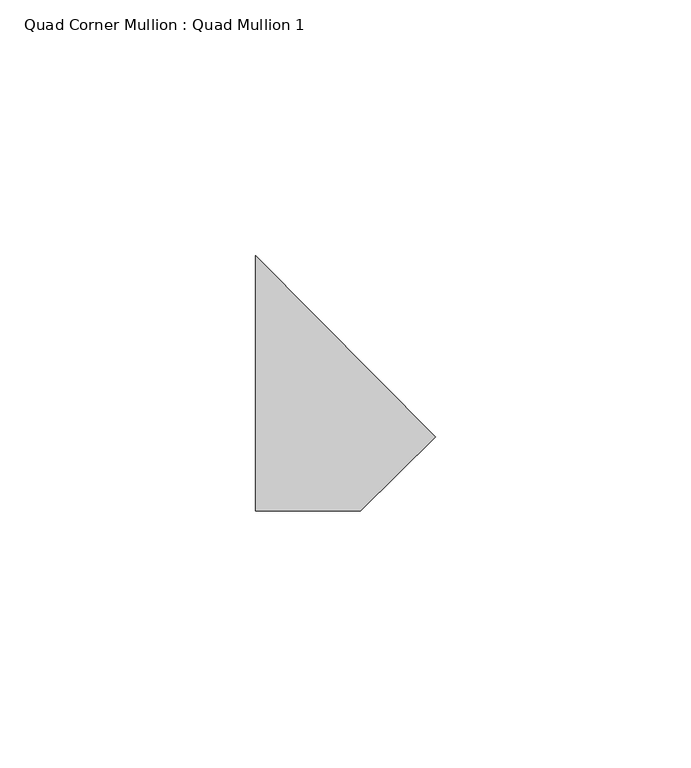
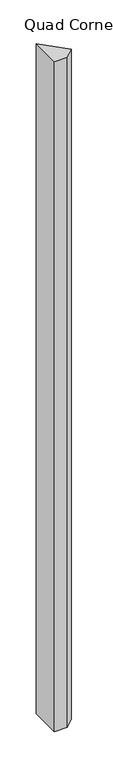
"""IFC4 building model written with IfcOpenShell, lengths in millimetres: member geometry, Quad Corner Mullion : Quad Mullion 1."""

import ifcopenshell
import ifcopenshell.guid

model = None  # the IFC model being written
_history = None  # IfcOwnerHistory: only IFC2X3 demands one
_inside = {}  # id of a spatial element -> (the spatial element, [elements in it])
_under = {}  # id of a project, library or spatial element -> (it, [spatial elements below it])
_declared = {}  # id of a project -> (the project, [libraries it declares])
_typed = {}  # id of a type object -> (the type object, [elements of that type])
_made_of = {}  # id of a material, layer set ... -> (it, [elements and type objects made of it])


def new_model(schema):
    """Start an empty IFC model of exactly this schema.

    Asked for "IFC4X3", IfcOpenShell would pick the latest addendum, in which some entities
    have other attributes; the version numbers below select the first issue.
    IFC2X3 requires an IfcOwnerHistory on every rooted entity: one is made here for all.
    """
    global model, _history
    if schema == "IFC4X3":
        model = ifcopenshell.file(schema_version=(4, 3, 0, 0))
    else:
        model = ifcopenshell.file(schema=schema)
    _inside.clear()
    _under.clear()
    _declared.clear()
    _typed.clear()
    _made_of.clear()
    _history = None
    if model.schema == "IFC2X3":
        org = make("IfcOrganization", Name="unknown")
        user = make(
            "IfcPersonAndOrganization",
            ThePerson=make("IfcPerson", FamilyName="unknown"),
            TheOrganization=org,
        )
        app = make(
            "IfcApplication",
            ApplicationDeveloper=org,
            Version="unknown",
            ApplicationFullName="unknown",
            ApplicationIdentifier="unknown",
        )
        _history = make(
            "IfcOwnerHistory",
            OwningUser=user,
            OwningApplication=app,
            ChangeAction="ADDED",
            CreationDate=0,
        )
    return model


def make(cls, **values):
    """One entity of the class cls with the attributes given. An attribute that is None is left unset."""
    return model.create_entity(
        cls, **{name: value for name, value in values.items() if value is not None}
    )


def rooted(cls, **values):
    """An entity with a GlobalId (a new one), such as an element, a storey or a relation."""
    return make(cls, GlobalId=ifcopenshell.guid.new(), OwnerHistory=_history, **values)


def si_unit(unit_type, name, prefix=None):
    """IfcSIUnit, for example si_unit("LENGTHUNIT", "METRE", prefix="MILLI")."""
    return make("IfcSIUnit", UnitType=unit_type, Prefix=prefix, Name=name)


def assignment(units):
    """IfcUnitAssignment: the units of a project."""
    return None if units is None else make("IfcUnitAssignment", Units=units)


def point(xyz):
    """IfcCartesianPoint."""
    return None if xyz is None else make("IfcCartesianPoint", Coordinates=xyz)


def direction(xyz):
    """IfcDirection."""
    return None if xyz is None else make("IfcDirection", DirectionRatios=xyz)


def frame(location, z_axis=None, x_axis=None):
    """IfcAxis2Placement3D, a coordinate frame: its origin and axes. An axis left out is left unset."""
    return make(
        "IfcAxis2Placement3D",
        Location=point(location),
        Axis=direction(z_axis),
        RefDirection=direction(x_axis),
    )


def origin():
    """The frame at (0, 0, 0) with its axes left unset."""
    return frame((0.0, 0.0, 0.0))


def place(relative_to, where):
    """IfcLocalPlacement: puts the frame where relative to a parent placement (None: the world)."""
    return make(
        "IfcLocalPlacement", PlacementRelTo=relative_to, RelativePlacement=where
    )


def context(
    kind, dimensions, precision=None, world=None, true_north=None, identifier=None
):
    """IfcGeometricRepresentationContext, for example the 3D "Model" context."""
    return make(
        "IfcGeometricRepresentationContext",
        ContextIdentifier=identifier,
        ContextType=kind,
        CoordinateSpaceDimension=dimensions,
        Precision=precision,
        WorldCoordinateSystem=world,
        TrueNorth=true_north,
    )


def project(units=None, contexts=None):
    """IfcProject with its units and contexts."""
    return rooted(
        "IfcProject",
        Name="project",
        RepresentationContexts=contexts,
        UnitsInContext=assignment(units),
    )


def spatial(cls, under=None, at=None, **own):
    """A site, building, storey or space (cls), placed at a placement, below another one or the project."""
    s = rooted(cls, ObjectPlacement=at, **own)
    if under is not None:
        _under.setdefault(under.id(), (under, []))[1].append(s)
    return s


def polyline(points):
    """IfcPolyline through the points."""
    return make("IfcPolyline", Points=[point(p) for p in points])


def outline(outer, holes=None, kind="AREA"):
    """IfcArbitraryClosedProfileDef: a profile drawn as a closed curve; with holes, ...WithVoids."""
    if holes is None:
        return make("IfcArbitraryClosedProfileDef", ProfileType=kind, OuterCurve=outer)
    return make(
        "IfcArbitraryProfileDefWithVoids",
        ProfileType=kind,
        OuterCurve=outer,
        InnerCurves=holes,
    )


def extrude(swept, where, along, depth):
    """IfcExtrudedAreaSolid: the profile swept, set in the frame where, extruded along a direction by depth."""
    return make(
        "IfcExtrudedAreaSolid",
        SweptArea=swept,
        Position=where,
        ExtrudedDirection=direction(along),
        Depth=depth,
    )


def shape(context_of_items, identifier, shape_type, items):
    """IfcShapeRepresentation: the items that make up one representation, for example the "Body"."""
    return make(
        "IfcShapeRepresentation",
        ContextOfItems=context_of_items,
        RepresentationIdentifier=identifier,
        RepresentationType=shape_type,
        Items=items,
    )


def source(mapping_origin, context_of_items, identifier, shape_type, items):
    """IfcRepresentationMap: a shape defined once, which mapped items show again and again."""
    return make(
        "IfcRepresentationMap",
        MappingOrigin=mapping_origin,
        MappedRepresentation=shape(context_of_items, identifier, shape_type, items),
    )


def transform(
    local_origin,
    x_axis=None,
    y_axis=None,
    z_axis=None,
    scale=None,
    scale2=None,
    scale3=None,
    uniform=True,
):
    """IfcCartesianTransformationOperator3D, or its non-uniform kind. x_axis, y_axis, z_axis: its Axis1, 2, 3."""
    if uniform:
        return make(
            "IfcCartesianTransformationOperator3D",
            Axis1=direction(x_axis),
            Axis2=direction(y_axis),
            LocalOrigin=point(local_origin),
            Scale=scale,
            Axis3=direction(z_axis),
        )
    return make(
        "IfcCartesianTransformationOperator3DnonUniform",
        Axis1=direction(x_axis),
        Axis2=direction(y_axis),
        LocalOrigin=point(local_origin),
        Scale=scale,
        Axis3=direction(z_axis),
        Scale2=scale2,
        Scale3=scale3,
    )


def mapped(mapping_source, mapping_target):
    """IfcMappedItem: shows the shape of a source again, moved by a transform."""
    return make(
        "IfcMappedItem", MappingSource=mapping_source, MappingTarget=mapping_target
    )


def made_of(thing, what):
    """Note that an element or type object is made of a material, layer set ...; save() writes the relation."""
    if what is not None:
        _made_of.setdefault(what.id(), (what, []))[1].append(thing)
    return thing


def element(
    cls,
    number,
    at=None,
    inside=None,
    cuts=None,
    type_object=None,
    material=None,
    context=None,
    identifier="Body",
    shape_type=None,
    held_by="IfcProductDefinitionShape",
    body=None,
    shapes=None,
    **own,
):
    """One element of the class cls, such as IfcWall. Its Tag is "e" and its number.

    at: its placement. inside: the storey or other place that contains it. cuts: it is an
    opening in that element (IfcRelVoidsElement). A single representation is given by context,
    identifier, shape_type and body (its items); several are given by shapes. held_by: the class
    of the entity that holds the representations. save() writes the other relations.
    """
    e = rooted(cls, Tag="e%d" % number, ObjectPlacement=at, **own)
    if body is not None:
        shapes = [shape(context, identifier, shape_type, body)]
    if shapes is not None:
        e.Representation = make(held_by, Representations=shapes)
    if inside is not None:
        _inside.setdefault(inside.id(), (inside, []))[1].append(e)
    if cuts is not None:
        rooted(
            "IfcRelVoidsElement", RelatingBuildingElement=cuts, RelatedOpeningElement=e
        )
    if type_object is not None:
        _typed.setdefault(type_object.id(), (type_object, []))[1].append(e)
    return made_of(e, material)


def aggregate(whole, parts):
    """IfcRelAggregates: a whole, such as a stair, and the parts it consists of."""
    return rooted("IfcRelAggregates", RelatingObject=whole, RelatedObjects=parts)


def save(model, path):
    """Write the relations noted so far, then the file.

    IfcRelAggregates (storeys below a building ...), IfcRelContainedInSpatialStructure (elements
    in a storey), IfcRelDefinesByType, IfcRelAssociatesMaterial and IfcRelDeclares: one each for
    every whole, place, type object, material and project.
    """
    for whole, parts in _under.values():
        aggregate(whole, parts)
    for where, things in _inside.values():
        rooted(
            "IfcRelContainedInSpatialStructure",
            RelatedElements=things,
            RelatingStructure=where,
        )
    for kind, things in _typed.values():
        rooted("IfcRelDefinesByType", RelatedObjects=things, RelatingType=kind)
    for what, things in _made_of.values():
        rooted("IfcRelAssociatesMaterial", RelatedObjects=things, RelatingMaterial=what)
    for by, libraries in _declared.values():
        rooted("IfcRelDeclares", RelatingContext=by, RelatedDefinitions=libraries)
    model.write(path)


def quad_corner_mullion_quad_mullion_1_86a5a9b1(model_context):
    return source(origin(), model_context, "Body", "SweptSolid", [
        extrude(outline(polyline([(24.9061874, -10.5144095), (10.2893623, -25.0), (-10.2893623, -25.0), (-10.2893623, 25.0), (24.9061874, -10.5144095)])), frame((0.0, 0.0, -1127.1560249), z_axis=(0.0, 0.0, 1.0), x_axis=(1.0, 0.0, 0.0)), (0.0, 0.0, 1.0), 1127.1560249),
    ])


if __name__ == "__main__":
    model = new_model("IFC4")
    model_context = context("Model", 3, world=origin())
    ifc_project = project(units=[si_unit("LENGTHUNIT", "METRE", prefix="MILLI")], contexts=[model_context])
    site = spatial("IfcSite", under=ifc_project)
    building = spatial("IfcBuilding", under=site)
    placement = place(None, origin())
    quad_corner_mullion_quad_mullion_1_shape = quad_corner_mullion_quad_mullion_1_86a5a9b1(model_context)
    element("IfcMember", 1, ObjectType="Quad Corner Mullion : Quad Mullion 1", at=placement, inside=building, context=model_context, shape_type="MappedRepresentation", body=[
        mapped(quad_corner_mullion_quad_mullion_1_shape, transform((0.0, 0.0, 0.0), x_axis=(1.0, 0.0, 0.0), y_axis=(0.0, 1.0, 0.0), z_axis=(0.0, 0.0, 1.0))),
    ])
    save(model, "model.ifc")
